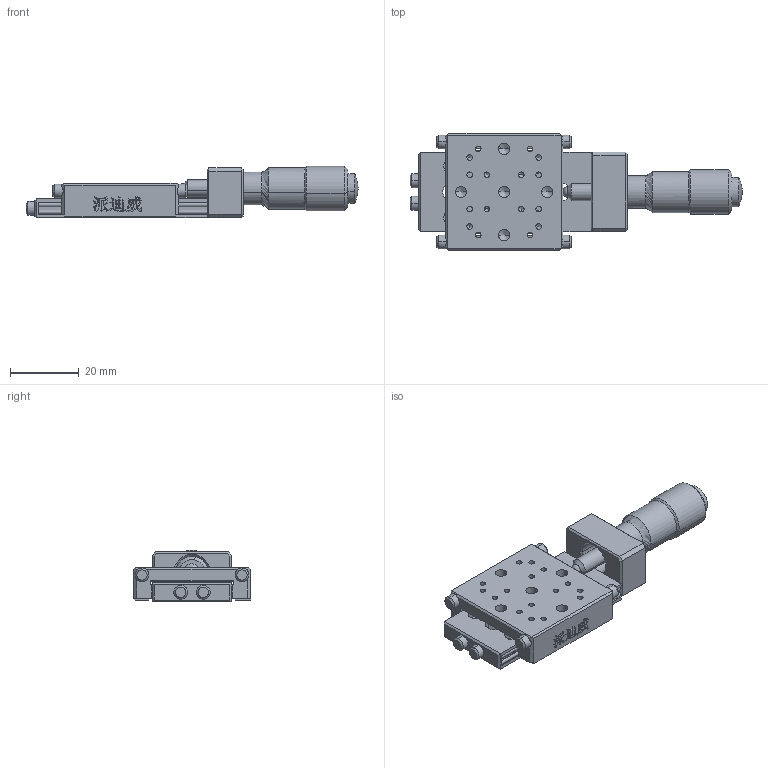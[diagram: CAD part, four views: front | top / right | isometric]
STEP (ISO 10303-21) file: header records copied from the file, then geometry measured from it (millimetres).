
FILE_DESCRIPTION (( 'STEP AP214' ), '1' );
FILE_NAME ('PP110-13-34.STEP', '2022-09-03T02:59:04', ( '' ), ( '' ), 'SwSTEP 2.0', 'SolidWorks 2017', '' );
FILE_SCHEMA (( 'AUTOMOTIVE_DESIGN' ));
Length unit declared in the file: millimetre
Products named in the file (5): PP110-13-34菁啣; PP110-13-34峚煦芛釱; PP110-13-34; 峚煦芛; 怢醱
Assembly tree (4 placements, depth 2):
  PP110-13-34
    PP110-13-34峚煦芛釱
    PP110-13-34菁啣
    怢醱
    峚煦芛
Bounding box: 96.25 x 34 x 14.99 mm (x, y, z)
Volume: 17719.8 mm3; surface area: 12603 mm2
Topology: 8 solids, 8 shells, 638 faces, 1681 edges, 1077 vertices
Faces by surface type: plane 335, bspline 154, cylinder 97, cone 50, sphere 2
Entity records: 28936 total; most frequent: CARTESIAN_POINT 10822, ORIENTED_EDGE 3304, DIRECTION 2560, EDGE_CURVE 1652, VECTOR 1094, LINE 1094, VERTEX_POINT 1075, AXIS2_PLACEMENT_3D 733
